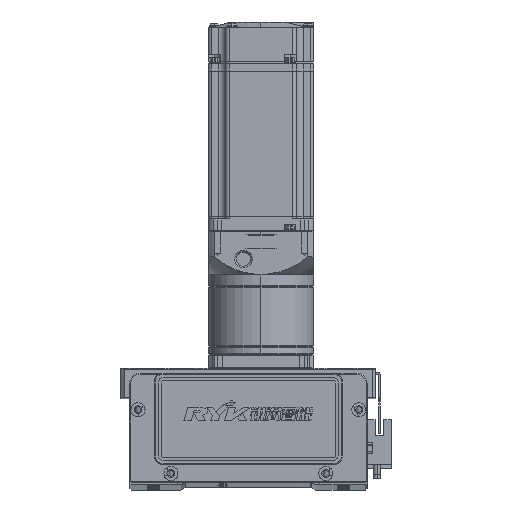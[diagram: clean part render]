
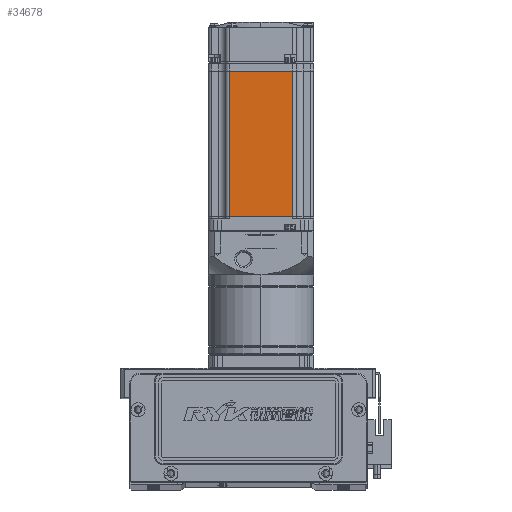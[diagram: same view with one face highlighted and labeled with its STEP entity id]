
A CAD part, top view. The second image highlights one B-rep face of the part: STEP entity #34678.
In plain terms, the highlighted planar face has unit normal (0, 0, 1).
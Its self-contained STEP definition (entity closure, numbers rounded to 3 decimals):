
#6 = VECTOR ( 'NONE', #27135, 1000. ) ;
#505 = CARTESIAN_POINT ( 'NONE',  ( -90.45, 18., 30. ) ) ;
#7145 = VERTEX_POINT ( 'NONE', #22150 ) ;
#13912 = PLANE ( 'NONE',  #59905 ) ;
#14625 = LINE ( 'NONE', #34224, #6 ) ;
#14984 = DIRECTION ( 'NONE',  ( -1., 0., 0. ) ) ;
#17002 = ORIENTED_EDGE ( 'NONE', *, *, #64159, .F. ) ;
#20245 = ORIENTED_EDGE ( 'NONE', *, *, #77874, .F. ) ;
#20260 = VERTEX_POINT ( 'NONE', #35680 ) ;
#20749 = CARTESIAN_POINT ( 'NONE',  ( -6.5, 18., 30. ) ) ;
#22150 = CARTESIAN_POINT ( 'NONE',  ( -7.75, 18., 30. ) ) ;
#22516 = VERTEX_POINT ( 'NONE', #55285 ) ;
#22728 = VECTOR ( 'NONE', #14984, 1000. ) ;
#23842 = EDGE_LOOP ( 'NONE', ( #20245, #44859, #80366, #17002 ) ) ;
#27135 = DIRECTION ( 'NONE',  ( 0., -1., 0. ) ) ;
#34224 = CARTESIAN_POINT ( 'NONE',  ( -7.75, 0., 30. ) ) ;
#34678 = ADVANCED_FACE ( 'NONE', ( #64543 ), #13912, .T. ) ;
#35680 = CARTESIAN_POINT ( 'NONE',  ( -90.45, -18., 30. ) ) ;
#37495 = CARTESIAN_POINT ( 'NONE',  ( -90.45, 0., 30. ) ) ;
#37756 = DIRECTION ( 'NONE',  ( 0., -1., 0. ) ) ;
#37969 = CARTESIAN_POINT ( 'NONE',  ( -6.5, -25., 30. ) ) ;
#38261 = DIRECTION ( 'NONE',  ( 1., 0., 0. ) ) ;
#38583 = EDGE_CURVE ( 'NONE', #7145, #48802, #57829, .T. ) ;
#44204 = DIRECTION ( 'NONE',  ( -1., 0., 0. ) ) ;
#44859 = ORIENTED_EDGE ( 'NONE', *, *, #38583, .T. ) ;
#45911 = EDGE_CURVE ( 'NONE', #48802, #20260, #60067, .T. ) ;
#48309 = VECTOR ( 'NONE', #37756, 1000. ) ;
#48802 = VERTEX_POINT ( 'NONE', #505 ) ;
#50222 = CARTESIAN_POINT ( 'NONE',  ( -6.5, -18., 30. ) ) ;
#55285 = CARTESIAN_POINT ( 'NONE',  ( -7.75, -18., 30. ) ) ;
#57829 = LINE ( 'NONE', #20749, #22728 ) ;
#59905 = AXIS2_PLACEMENT_3D ( 'NONE', #37969, #69773, #38261 ) ;
#59930 = LINE ( 'NONE', #50222, #62800 ) ;
#60067 = LINE ( 'NONE', #37495, #48309 ) ;
#62800 = VECTOR ( 'NONE', #44204, 1000. ) ;
#64159 = EDGE_CURVE ( 'NONE', #22516, #20260, #59930, .T. ) ;
#64543 = FACE_OUTER_BOUND ( 'NONE', #23842, .T. ) ;
#69773 = DIRECTION ( 'NONE',  ( 0., 0., 1. ) ) ;
#77874 = EDGE_CURVE ( 'NONE', #7145, #22516, #14625, .T. ) ;
#80366 = ORIENTED_EDGE ( 'NONE', *, *, #45911, .T. ) ;
